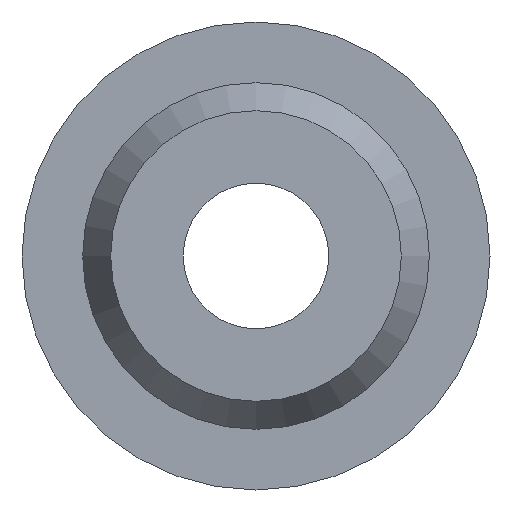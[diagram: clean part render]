
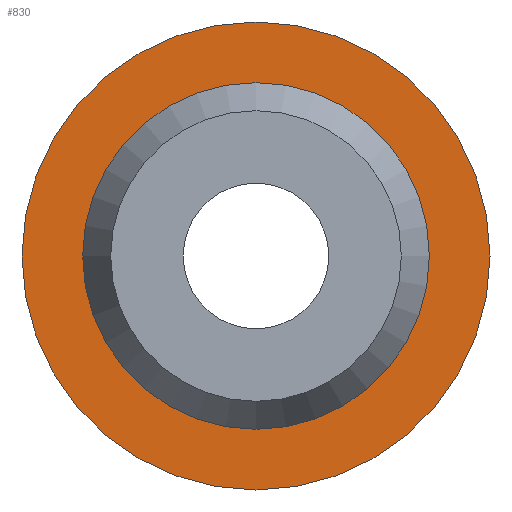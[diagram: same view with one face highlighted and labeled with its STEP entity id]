
A CAD part, front view. The second image highlights one B-rep face of the part: STEP entity #830.
In plain terms, the highlighted planar face has unit normal (0, -1, 0).
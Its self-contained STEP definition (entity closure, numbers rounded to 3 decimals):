
#150=CARTESIAN_POINT('',(5.0,5.5,0.0));
#151=VERTEX_POINT('',#150);
#152=CARTESIAN_POINT('',(0.0,5.5,0.0));
#153=DIRECTION('',(0.0,-1.0,0.0));
#154=DIRECTION('',(1.0,0.0,0.0));
#155=AXIS2_PLACEMENT_3D('',#152,#153,#154);
#156=CIRCLE('',#155,5.0);
#157=EDGE_CURVE('',#151,#151,#156,.T.);
#804=CARTESIAN_POINT('',(6.75,5.5,0.0));
#805=VERTEX_POINT('',#804);
#806=CARTESIAN_POINT('',(0.0,5.5,0.0));
#807=DIRECTION('',(0.0,-1.0,0.0));
#808=DIRECTION('',(1.0,0.0,0.0));
#809=AXIS2_PLACEMENT_3D('',#806,#807,#808);
#810=CIRCLE('',#809,6.75);
#811=EDGE_CURVE('',#805,#805,#810,.T.);
#819=CARTESIAN_POINT('',(5.875,5.5,0.0));
#820=DIRECTION('',(0.0,-1.0,0.0));
#821=DIRECTION('',(0.0,0.0,-1.0));
#822=AXIS2_PLACEMENT_3D('',#819,#820,#821);
#823=PLANE('',#822);
#824=ORIENTED_EDGE('',*,*,#811,.T.);
#825=EDGE_LOOP('',(#824));
#826=FACE_OUTER_BOUND('',#825,.T.);
#827=ORIENTED_EDGE('',*,*,#157,.F.);
#828=EDGE_LOOP('',(#827));
#829=FACE_BOUND('',#828,.T.);
#830=ADVANCED_FACE('',(#826,#829),#823,.T.);
